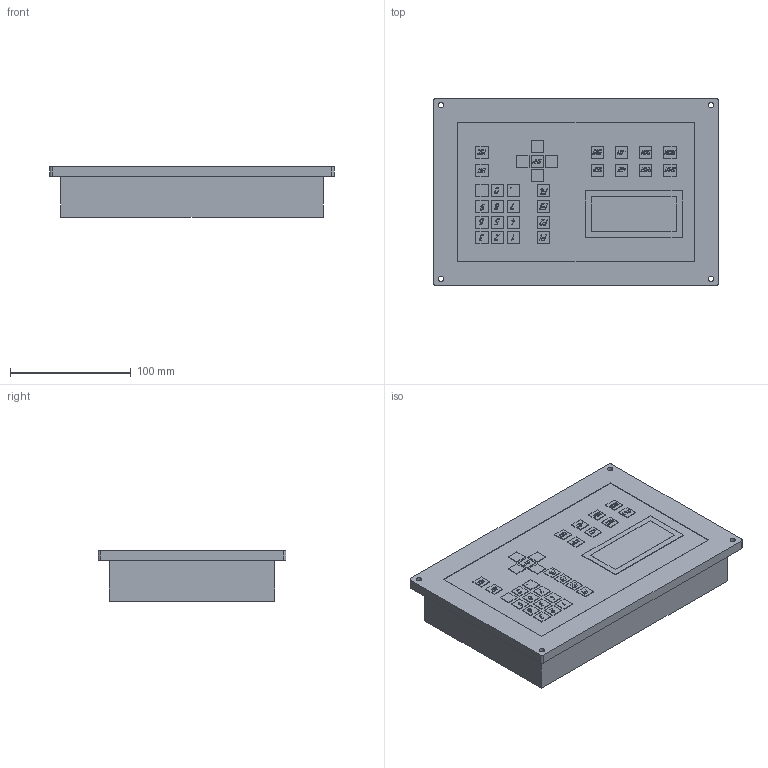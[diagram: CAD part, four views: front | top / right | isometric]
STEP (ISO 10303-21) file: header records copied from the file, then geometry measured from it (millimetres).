
FILE_DESCRIPTION(('STEP AP203'), '1');
FILE_NAME('扻艜豂錭歑 THC BCS100', '2022-08-16T13:20:46', (''), (''), 'ASCON STEP Converter 1.6', 'ASCON Math Kernel', '');
FILE_SCHEMA(('CONFIG_CONTROL_DESIGN'));
Length unit declared in the file: millimetre
Products named in the file (1): BCS100
Bounding box: 236 x 156 x 42 mm (x, y, z)
Volume: 1300962.3 mm3; surface area: 105495.6 mm2
Topology: 1 solids, 1 shells, 2951 faces, 8520 edges, 5680 vertices
Faces by surface type: cylinder 1604, plane 1347
Full cylindrical faces by diameter (mm): 4.5 x4
Entity records: 98075 total; most frequent: DIRECTION 17628, CARTESIAN_POINT 17148, ORIENTED_EDGE 17032, EDGE_CURVE 8516, AXIS2_PLACEMENT_3D 6160, VERTEX_POINT 5680, LINE 5308, VECTOR 5308
